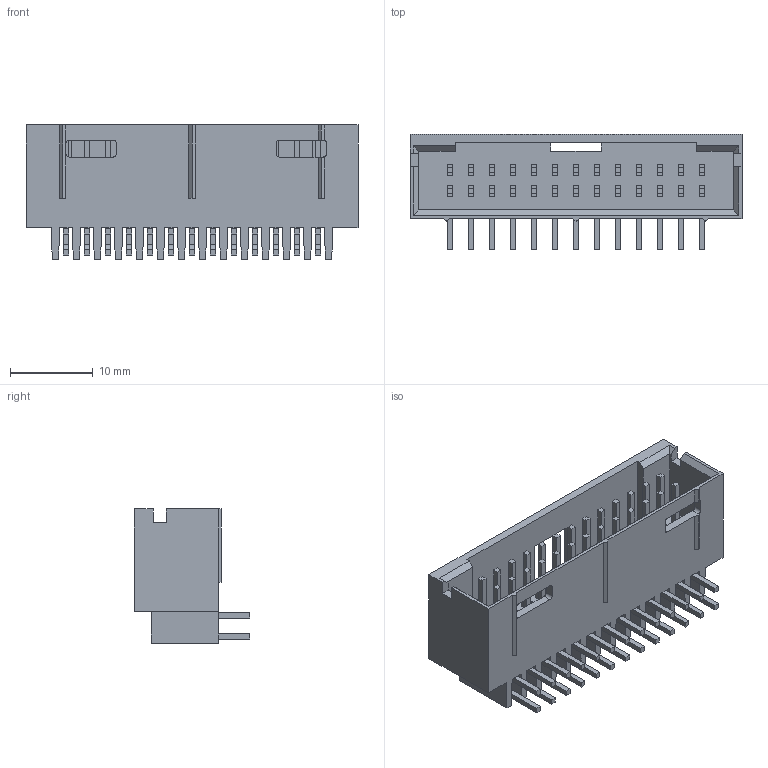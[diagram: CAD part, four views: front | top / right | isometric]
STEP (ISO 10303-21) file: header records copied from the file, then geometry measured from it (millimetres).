
FILE_DESCRIPTION((''),'2;1');
FILE_NAME('C-1-103167-0','2012-01-19T',('workeradm'),('Tyco Electronics Ltd.'),'PRO/ENGINEER BY PARAMETRIC TECHNOLOGY CORPORATION, 2010430','PRO/ENGINEER BY PARAMETRIC TECHNOLOGY CORPORATION, 2010430','');
FILE_SCHEMA(('AUTOMOTIVE_DESIGN { 1 0 10303 214 1 1 1 1 }'));
Length unit declared in the file: millimetre
Products named in the file (1): C-1-103167-0
Bounding box: 40.13 x 13.92 x 16.23 mm (x, y, z)
Volume: 2861.1 mm3; surface area: 4941.2 mm2
Topology: 1 solids, 1 shells, 558 faces, 1518 edges, 1010 vertices
Faces by surface type: plane 498, cylinder 60
Entity records: 17607 total; most frequent: CARTESIAN_POINT 3094, ORIENTED_EDGE 3036, DIRECTION 2752, EDGE_CURVE 1518, VECTOR 1396, LINE 1396, VERTEX_POINT 1010, AXIS2_PLACEMENT_3D 678
